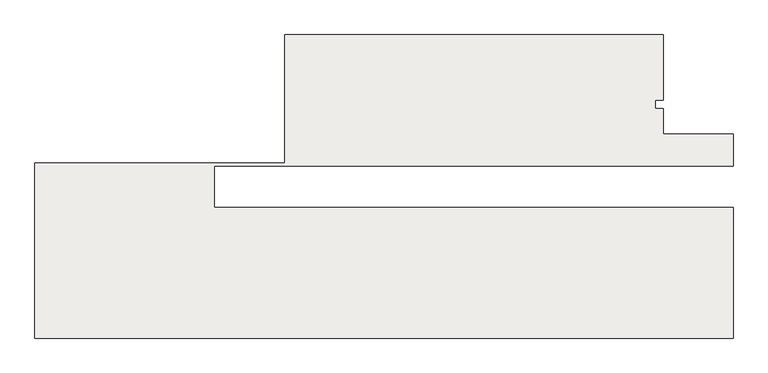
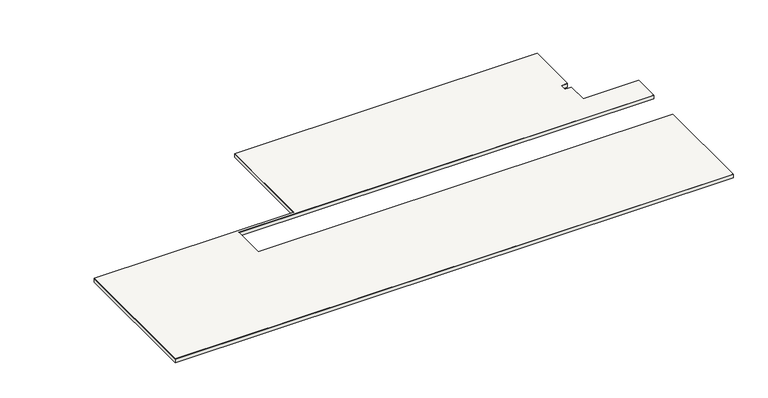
"""IFC4 building model written with IfcOpenShell, lengths in millimetres: slab geometry, Sol-02 - dalle béton 30cm + finition 1cm."""

from ifc_helpers import new_model, si_unit, frame, origin, origin_with_axes, place, context, project, spatial, polyline, outline, extrude, source, transform, mapped, element, save


def slab_a131b596(model_context):
    return source(origin(), model_context, "Body", "SweptSolid", [
        extrude(outline(polyline([(79994.9999483, 0.0), (36415.0000007, 0.0), (36415.0000007, 10952.3446595), (52001.9999483, 10952.3446595), (52001.9999483, 18953.1349969), (75641.9999483, 18953.1349969), (75641.9999483, 14863.1349969), (75141.9999483, 14863.1349969), (75141.9999483, 14353.1349969), (75641.9999483, 14353.1349969), (75641.9999483, 12752.3446595), (79994.9999483, 12752.3446595), (79994.9999483, 10752.3446595), (47614.9999799, 10752.3446595), (47614.9999799, 8151.5693228), (79994.9999483, 8151.5693228), (79994.9999483, 0.0)])), frame((0.0, 0.0, 300.0), z_axis=(0.0, 0.0, 1.0), x_axis=(1.0, 0.0, 0.0)), (0.0, 0.0, 1.0), 10.0),
        extrude(outline(polyline([(36415.0000007, 0.0), (36415.0000007, 10952.3446595), (52001.9999483, 10952.3446595), (52001.9999483, 18953.1349969), (75641.9999483, 18953.1349969), (75641.9999483, 14863.1349969), (75141.9999483, 14863.1349969), (75141.9999483, 14353.1349969), (75641.9999483, 14353.1349969), (75641.9999483, 12752.3446595), (79994.9999483, 12752.3446595), (79994.9999483, 10752.3446595), (47614.9999799, 10752.3446595), (47614.9999799, 8151.5693228), (79994.9999483, 8151.5693228), (79994.9999483, 0.0), (36415.0000007, 0.0)])), origin_with_axes(), (0.0, 0.0, 1.0), 300.0),
    ])


if __name__ == "__main__":
    model = new_model("IFC4")
    model_context = context("Model", 3, world=origin())
    ifc_project = project(units=[si_unit("LENGTHUNIT", "METRE", prefix="MILLI")], contexts=[model_context])
    site = spatial("IfcSite", under=ifc_project)
    building = spatial("IfcBuilding", under=site)
    placement = place(None, origin())
    slab_shape = slab_a131b596(model_context)
    element("IfcSlab", 1, ObjectType="Sol-02 - dalle béton 30cm + finition 1cm", at=placement, inside=building, context=model_context, shape_type="MappedRepresentation", body=[
        mapped(slab_shape, transform((0.0, 0.0, 0.0), x_axis=(1.0, 0.0, 0.0), y_axis=(0.0, 1.0, 0.0), z_axis=(0.0, 0.0, 1.0))),
    ])
    save(model, "model.ifc")
